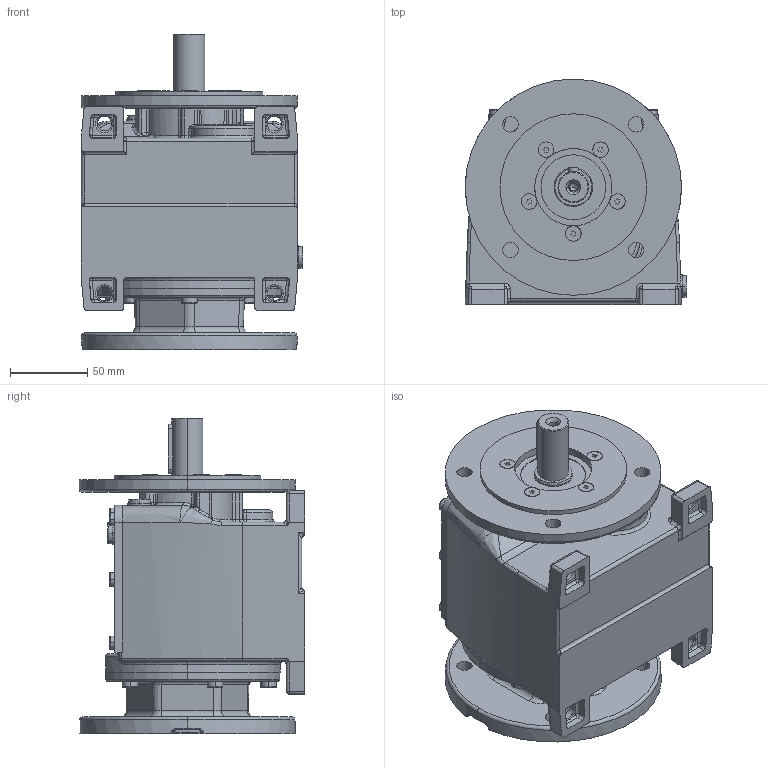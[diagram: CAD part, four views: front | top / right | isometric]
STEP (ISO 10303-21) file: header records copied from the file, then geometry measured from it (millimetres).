
FILE_DESCRIPTION (( 'STEP AP214' ), '1' );
FILE_NAME ('MTC22A-71-115+VP.STEP', '2006-05-03T07:55:40', ( '' ), ( '' ), 'SwSTEP 2.0', 'SolidWorks 2004146', '' );
FILE_SCHEMA (( 'AUTOMOTIVE_DESIGN' ));
Length unit declared in the file: millimetre
Products named in the file (6): Skrin MTC2_A_MTC22_AP71; D6912_Šroub DIN 6912 - M6x20; D7991_Šroub DIN 7991 - M5 x 16; Výst_pøíruba MTC_A_MTC2_A; pøíruba d55 MRT60a_pøíruba 95-115-140; MTC22A-71-115+VP
Assembly tree (14 placements, depth 2):
  MTC22A-71-115+VP
    D6912_Šroub DIN 6912 - M6x20  x6
    Výst_pøíruba MTC_A_MTC2_A
    D7991_Šroub DIN 7991 - M5 x 16  x5
    Skrin MTC2_A_MTC22_AP71
    pøíruba d55 MRT60a_pøíruba 95-115-140
Bounding box: 143.57 x 146 x 204.5 mm (x, y, z)
Volume: 2053746.2 mm3; surface area: 193322.8 mm2
Topology: 14 solids, 14 shells, 1561 faces, 3620 edges, 2107 vertices
Faces by surface type: plane 410, cylinder 373, torus 359, cone 239, bspline 154, sphere 26
Entity records: 126884 total; most frequent: CARTESIAN_POINT 93674, DIRECTION 6543, ORIENTED_EDGE 6164, EDGE_CURVE 3082, AXIS2_PLACEMENT_3D 2747, VERTEX_POINT 1853, CIRCLE 1584, EDGE_LOOP 1411
